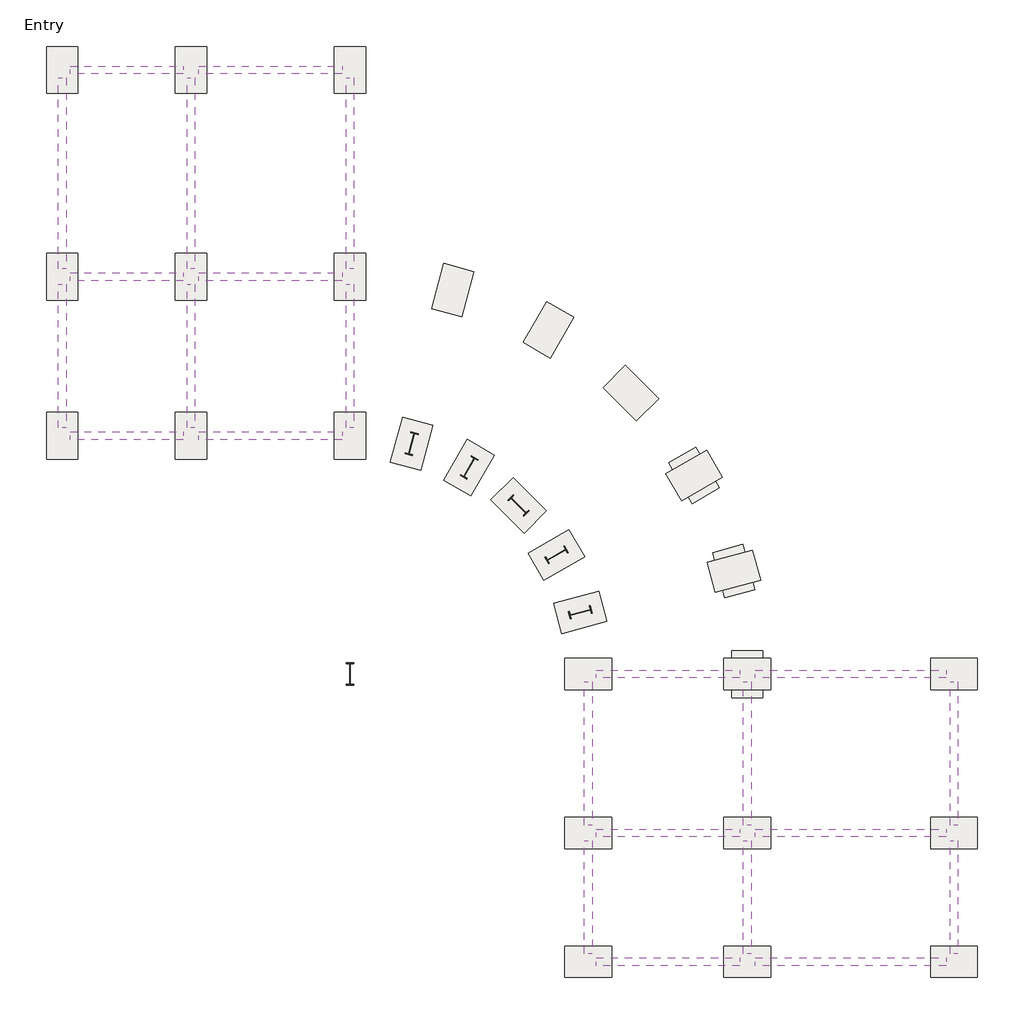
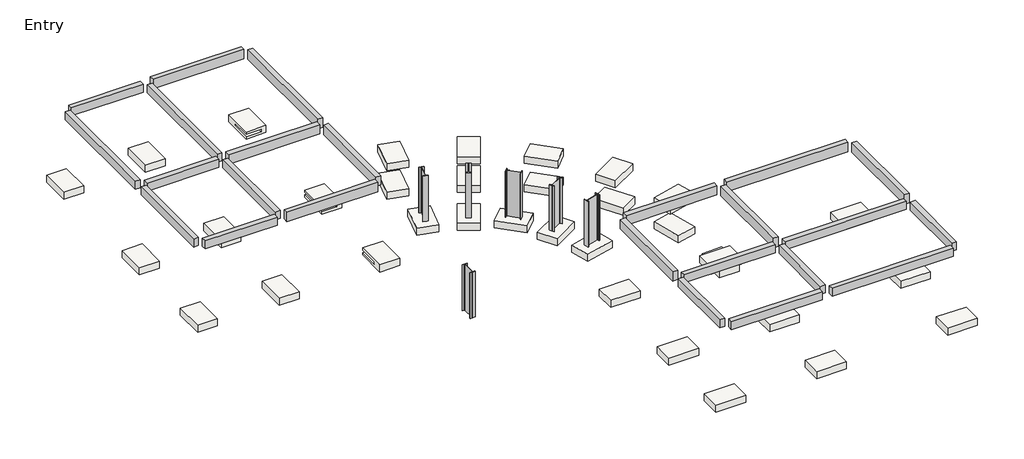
# One storey: 34 slabs, 24 beams, 6 columns.
"""IFC4 building model written with IfcOpenShell, lengths in millimetres."""

from ifc_helpers import new_model, si_unit, frame, origin, place, context, project, spatial, polyline, outline, extrude, faceted_brep, transform, mapped, element, save
from components import w840x251_ab389207, m_footing_rectangular_1800_x_1200_x_450mm_16ba7ea5, m_footing_rectangular_1800_x_1200_x_450mm_a17f5610

model = new_model("IFC4")

# Units and contexts
model_context = context("Model", 3, world=origin())
ifc_project = project(units=[si_unit("LENGTHUNIT", "METRE", prefix="MILLI")], contexts=[model_context])

# Site, building, storey
site = spatial("IfcSite", under=ifc_project)
building = spatial("IfcBuilding", under=site)
storey = spatial("IfcBuildingStorey", under=building, Name="Entry", Elevation=0.0)

# Beams
placement = place(None, origin())
element("IfcBeam", 1, ObjectType="M_Concrete-Rectangular Beam : 300 x 600mm", at=placement, inside=storey, context=model_context, shape_type="SweptSolid", body=[
    extrude(outline(polyline([(-16304.9035319, 4112.1636035), (-16304.9035319, 4412.1636035), (-10808.9035319, 4412.1636035), (-10808.9035319, 4112.1636035), (-16304.9035319, 4112.1636035)])), frame((0.0, 0.0, 2448.0), z_axis=(0.0, 0.0, 1.0), x_axis=(1.0, 0.0, 0.0)), (0.0, 0.0, 1.0), 600.0),
])
element("IfcBeam", 2, ObjectType="M_Concrete-Rectangular Beam : 300 x 600mm", at=placement, inside=storey, context=model_context, shape_type="SweptSolid", body=[
    extrude(outline(polyline([(-21244.300634, 4112.1636035), (-21244.300634, 4412.1636035), (-16904.9035319, 4412.1636035), (-16904.9035319, 4112.1636035), (-21244.300634, 4112.1636035)])), frame((0.0, 0.0, 2448.0), z_axis=(0.0, 0.0, 1.0), x_axis=(1.0, 0.0, 0.0)), (0.0, 0.0, 1.0), 510.0),
])
element("IfcBeam", 3, ObjectType="M_Concrete-Rectangular Beam : 300 x 600mm", at=placement, inside=storey, context=model_context, shape_type="SweptSolid", body=[
    extrude(outline(polyline([(-16304.9035319, -3812.8363965), (-16304.9035319, -3512.8363965), (-10808.9035319, -3512.8363965), (-10808.9035319, -3812.8363965), (-16304.9035319, -3812.8363965)])), frame((0.0, 0.0, 2448.0), z_axis=(0.0, 0.0, 1.0), x_axis=(1.0, 0.0, 0.0)), (0.0, 0.0, 1.0), 600.0),
])
element("IfcBeam", 4, ObjectType="M_Concrete-Rectangular Beam : 300 x 600mm", at=placement, inside=storey, context=model_context, shape_type="SweptSolid", body=[
    extrude(outline(polyline([(-21244.300634, -3812.8363965), (-21244.300634, -3512.8363965), (-16904.9035319, -3512.8363965), (-16904.9035319, -3812.8363965), (-21244.300634, -3812.8363965)])), frame((0.0, 0.0, 2448.0), z_axis=(0.0, 0.0, 1.0), x_axis=(1.0, 0.0, 0.0)), (0.0, 0.0, 1.0), 510.0),
])
element("IfcBeam", 5, ObjectType="M_Concrete-Rectangular Beam : 300 x 600mm", at=placement, inside=storey, context=model_context, shape_type="SweptSolid", body=[
    extrude(outline(polyline([(-16304.9035319, -9908.8363965), (-16304.9035319, -9608.8363965), (-10808.9035319, -9608.8363965), (-10808.9035319, -9908.8363965), (-16304.9035319, -9908.8363965)])), frame((0.0, 0.0, 2448.0), z_axis=(0.0, 0.0, 1.0), x_axis=(1.0, 0.0, 0.0)), (0.0, 0.0, 1.0), 600.0),
])
element("IfcBeam", 6, ObjectType="M_Concrete-Rectangular Beam : 300 x 600mm", at=placement, inside=storey, context=model_context, shape_type="SweptSolid", body=[
    extrude(outline(polyline([(-21244.300634, -9908.8363965), (-21244.300634, -9608.8363965), (-16904.9035319, -9608.8363965), (-16904.9035319, -9908.8363965), (-21244.300634, -9908.8363965)])), frame((0.0, 0.0, 2448.0), z_axis=(0.0, 0.0, 1.0), x_axis=(1.0, 0.0, 0.0)), (0.0, 0.0, 1.0), 510.0),
])
element("IfcBeam", 7, ObjectType="M_Concrete-Rectangular Beam : 300 x 600mm", at=placement, inside=storey, context=model_context, shape_type="SweptSolid", body=[
    extrude(outline(polyline([(-21394.300634, -3362.8363965), (-21694.300634, -3362.8363965), (-21694.300634, 3962.1636035), (-21394.300634, 3962.1636035), (-21394.300634, -3362.8363965)])), frame((0.0, 0.0, 2448.0), z_axis=(0.0, 0.0, 1.0), x_axis=(1.0, 0.0, 0.0)), (0.0, 0.0, 1.0), 510.0),
])
element("IfcBeam", 8, ObjectType="M_Concrete-Rectangular Beam : 300 x 600mm", at=placement, inside=storey, context=model_context, shape_type="SweptSolid", body=[
    extrude(outline(polyline([(-21394.300634, -9458.8363965), (-21694.300634, -9458.8363965), (-21694.300634, -3962.8363965), (-21394.300634, -3962.8363965), (-21394.300634, -9458.8363965)])), frame((0.0, 0.0, 2448.0), z_axis=(0.0, 0.0, 1.0), x_axis=(1.0, 0.0, 0.0)), (0.0, 0.0, 1.0), 510.0),
])
element("IfcBeam", 9, ObjectType="M_Concrete-Rectangular Beam : 300 x 600mm", at=placement, inside=storey, context=model_context, shape_type="SweptSolid", body=[
    extrude(outline(polyline([(-16454.9035319, -9458.8363965), (-16754.9035319, -9458.8363965), (-16754.9035319, -3962.8363965), (-16454.9035319, -3962.8363965), (-16454.9035319, -9458.8363965)])), frame((0.0, 0.0, 2448.0), z_axis=(0.0, 0.0, 1.0), x_axis=(1.0, 0.0, 0.0)), (0.0, 0.0, 1.0), 510.0),
])
element("IfcBeam", 10, ObjectType="M_Concrete-Rectangular Beam : 300 x 600mm", at=placement, inside=storey, context=model_context, shape_type="SweptSolid", body=[
    extrude(outline(polyline([(-16454.9035319, -3362.8363965), (-16754.9035319, -3362.8363965), (-16754.9035319, 3962.1636035), (-16454.9035319, 3962.1636035), (-16454.9035319, -3362.8363965)])), frame((0.0, 0.0, 2448.0), z_axis=(0.0, 0.0, 1.0), x_axis=(1.0, 0.0, 0.0)), (0.0, 0.0, 1.0), 510.0),
])
element("IfcBeam", 11, ObjectType="M_Concrete-Rectangular Beam : 300 x 600mm", at=placement, inside=storey, context=model_context, shape_type="SweptSolid", body=[
    extrude(outline(polyline([(-10358.9035319, -9458.8363965), (-10658.9035319, -9458.8363965), (-10658.9035319, -3962.8363965), (-10358.9035319, -3962.8363965), (-10358.9035319, -9458.8363965)])), frame((0.0, 0.0, 2448.0), z_axis=(0.0, 0.0, 1.0), x_axis=(1.0, 0.0, 0.0)), (0.0, 0.0, 1.0), 600.0),
])
element("IfcBeam", 12, ObjectType="M_Concrete-Rectangular Beam : 300 x 600mm", at=placement, inside=storey, context=model_context, shape_type="SweptSolid", body=[
    extrude(outline(polyline([(-10358.9035319, -3362.8363965), (-10658.9035319, -3362.8363965), (-10658.9035319, 3962.1636035), (-10358.9035319, 3962.1636035), (-10358.9035319, -3362.8363965)])), frame((0.0, 0.0, 2448.0), z_axis=(0.0, 0.0, 1.0), x_axis=(1.0, 0.0, 0.0)), (0.0, 0.0, 1.0), 600.0),
])
element("IfcBeam", 13, ObjectType="M_Concrete-Rectangular Beam : 300 x 600mm", at=placement, inside=storey, context=model_context, shape_type="SweptSolid", body=[
    extrude(outline(polyline([(12806.0964681, -24698.8363965), (12506.0964681, -24698.8363965), (12506.0964681, -19202.8363965), (12806.0964681, -19202.8363965), (12806.0964681, -24698.8363965)])), frame((0.0, 0.0, 2448.0), z_axis=(0.0, 0.0, 1.0), x_axis=(1.0, 0.0, 0.0)), (0.0, 0.0, 1.0), 600.0),
])
element("IfcBeam", 14, ObjectType="M_Concrete-Rectangular Beam : 300 x 600mm", at=placement, inside=storey, context=model_context, shape_type="SweptSolid", body=[
    extrude(outline(polyline([(12806.0964681, -29638.2334986), (12506.0964681, -29638.2334986), (12506.0964681, -25298.8363965), (12806.0964681, -25298.8363965), (12806.0964681, -29638.2334986)])), frame((0.0, 0.0, 2448.0), z_axis=(0.0, 0.0, 1.0), x_axis=(1.0, 0.0, 0.0)), (0.0, 0.0, 1.0), 510.0),
])
element("IfcBeam", 15, ObjectType="M_Concrete-Rectangular Beam : 300 x 600mm", at=placement, inside=storey, context=model_context, shape_type="SweptSolid", body=[
    extrude(outline(polyline([(4881.0964681, -24698.8363965), (4581.0964681, -24698.8363965), (4581.0964681, -19202.8363965), (4881.0964681, -19202.8363965), (4881.0964681, -24698.8363965)])), frame((0.0, 0.0, 2448.0), z_axis=(0.0, 0.0, 1.0), x_axis=(1.0, 0.0, 0.0)), (0.0, 0.0, 1.0), 600.0),
])
element("IfcBeam", 16, ObjectType="M_Concrete-Rectangular Beam : 300 x 600mm", at=placement, inside=storey, context=model_context, shape_type="SweptSolid", body=[
    extrude(outline(polyline([(4881.0964681, -29638.2334986), (4581.0964681, -29638.2334986), (4581.0964681, -25298.8363965), (4881.0964681, -25298.8363965), (4881.0964681, -29638.2334986)])), frame((0.0, 0.0, 2448.0), z_axis=(0.0, 0.0, 1.0), x_axis=(1.0, 0.0, 0.0)), (0.0, 0.0, 1.0), 510.0),
])
element("IfcBeam", 17, ObjectType="M_Concrete-Rectangular Beam : 300 x 600mm", at=placement, inside=storey, context=model_context, shape_type="SweptSolid", body=[
    extrude(outline(polyline([(-1214.9035319, -24698.8363965), (-1514.9035319, -24698.8363965), (-1514.9035319, -19202.8363965), (-1214.9035319, -19202.8363965), (-1214.9035319, -24698.8363965)])), frame((0.0, 0.0, 2448.0), z_axis=(0.0, 0.0, 1.0), x_axis=(1.0, 0.0, 0.0)), (0.0, 0.0, 1.0), 600.0),
])
element("IfcBeam", 18, ObjectType="M_Concrete-Rectangular Beam : 300 x 600mm", at=placement, inside=storey, context=model_context, shape_type="SweptSolid", body=[
    extrude(outline(polyline([(-1214.9035319, -29638.2334986), (-1514.9035319, -29638.2334986), (-1514.9035319, -25298.8363965), (-1214.9035319, -25298.8363965), (-1214.9035319, -29638.2334986)])), frame((0.0, 0.0, 2448.0), z_axis=(0.0, 0.0, 1.0), x_axis=(1.0, 0.0, 0.0)), (0.0, 0.0, 1.0), 510.0),
])
element("IfcBeam", 19, ObjectType="M_Concrete-Rectangular Beam : 300 x 600mm", at=placement, inside=storey, context=model_context, shape_type="SweptSolid", body=[
    extrude(outline(polyline([(5031.0964681, -30088.2334986), (5031.0964681, -29788.2334986), (12356.0964681, -29788.2334986), (12356.0964681, -30088.2334986), (5031.0964681, -30088.2334986)])), frame((0.0, 0.0, 2448.0), z_axis=(0.0, 0.0, 1.0), x_axis=(1.0, 0.0, 0.0)), (0.0, 0.0, 1.0), 510.0),
])
element("IfcBeam", 20, ObjectType="M_Concrete-Rectangular Beam : 300 x 600mm", at=placement, inside=storey, context=model_context, shape_type="SweptSolid", body=[
    extrude(outline(polyline([(-1064.9035319, -30088.2334986), (-1064.9035319, -29788.2334986), (4431.0964681, -29788.2334986), (4431.0964681, -30088.2334986), (-1064.9035319, -30088.2334986)])), frame((0.0, 0.0, 2448.0), z_axis=(0.0, 0.0, 1.0), x_axis=(1.0, 0.0, 0.0)), (0.0, 0.0, 1.0), 510.0),
])
element("IfcBeam", 21, ObjectType="M_Concrete-Rectangular Beam : 300 x 600mm", at=placement, inside=storey, context=model_context, shape_type="SweptSolid", body=[
    extrude(outline(polyline([(-1064.9035319, -25148.8363965), (-1064.9035319, -24848.8363965), (4431.0964681, -24848.8363965), (4431.0964681, -25148.8363965), (-1064.9035319, -25148.8363965)])), frame((0.0, 0.0, 2448.0), z_axis=(0.0, 0.0, 1.0), x_axis=(1.0, 0.0, 0.0)), (0.0, 0.0, 1.0), 510.0),
])
element("IfcBeam", 22, ObjectType="M_Concrete-Rectangular Beam : 300 x 600mm", at=placement, inside=storey, context=model_context, shape_type="SweptSolid", body=[
    extrude(outline(polyline([(5031.0964681, -25148.8363965), (5031.0964681, -24848.8363965), (12356.0964681, -24848.8363965), (12356.0964681, -25148.8363965), (5031.0964681, -25148.8363965)])), frame((0.0, 0.0, 2448.0), z_axis=(0.0, 0.0, 1.0), x_axis=(1.0, 0.0, 0.0)), (0.0, 0.0, 1.0), 510.0),
])
element("IfcBeam", 23, ObjectType="M_Concrete-Rectangular Beam : 300 x 600mm", at=placement, inside=storey, context=model_context, shape_type="SweptSolid", body=[
    extrude(outline(polyline([(-1064.9035319, -19052.8363965), (-1064.9035319, -18752.8363965), (4431.0964681, -18752.8363965), (4431.0964681, -19052.8363965), (-1064.9035319, -19052.8363965)])), frame((0.0, 0.0, 2448.0), z_axis=(0.0, 0.0, 1.0), x_axis=(1.0, 0.0, 0.0)), (0.0, 0.0, 1.0), 600.0),
])
element("IfcBeam", 24, ObjectType="M_Concrete-Rectangular Beam : 300 x 600mm", at=placement, inside=storey, context=model_context, shape_type="SweptSolid", body=[
    extrude(outline(polyline([(5031.0964681, -19052.8363965), (5031.0964681, -18752.8363965), (12356.0964681, -18752.8363965), (12356.0964681, -19052.8363965), (5031.0964681, -19052.8363965)])), frame((0.0, 0.0, 2448.0), z_axis=(0.0, 0.0, 1.0), x_axis=(1.0, 0.0, 0.0)), (0.0, 0.0, 1.0), 600.0),
])

# Columns
w840x251_shape = w840x251_ab389207(model_context)
element("IfcColumn", 25, ObjectType="M_W-Wide Flange-Column : W840X251", at=placement, inside=storey, context=model_context, shape_type="MappedRepresentation", body=[
    mapped(w840x251_shape, transform((-10508.9035319, -18902.8363965, 0.0), x_axis=(1.0, 0.0, 0.0), y_axis=(0.0, 1.0, 0.0), z_axis=(0.0, 0.0, 1.0))),
])
element("IfcColumn", 26, ObjectType="M_W-Wide Flange-Column : W840X251", at=placement, inside=storey, context=model_context, shape_type="MappedRepresentation", body=[
    mapped(w840x251_shape, transform((-1676.4777763, -16536.1950481, 0.0), x_axis=(-0.25881904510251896, 0.9659258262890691, 0.0), y_axis=(-0.9659258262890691, -0.25881904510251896, 0.0), z_axis=(0.0, 0.0, 1.0))),
])
element("IfcColumn", 27, ObjectType="M_W-Wide Flange-Column : W840X251", at=placement, inside=storey, context=model_context, shape_type="MappedRepresentation", body=[
    mapped(w840x251_shape, transform((-2589.9672396, -14330.8363965, 0.0), x_axis=(-0.4999999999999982, 0.8660254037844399, 0.0), y_axis=(-0.8660254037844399, -0.4999999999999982, 0.0), z_axis=(0.0, 0.0, 1.0))),
])
element("IfcColumn", 28, ObjectType="M_W-Wide Flange-Column : W840X251", at=placement, inside=storey, context=model_context, shape_type="MappedRepresentation", body=[
    mapped(w840x251_shape, transform((-4043.1191247, -12437.0519893, 0.0), x_axis=(0.7071067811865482, 0.7071067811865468, 0.0), y_axis=(-0.7071067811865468, 0.7071067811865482, 0.0), z_axis=(0.0, 0.0, 1.0))),
])
element("IfcColumn", 29, ObjectType="M_W-Wide Flange-Column : W840X251", at=placement, inside=storey, context=model_context, shape_type="MappedRepresentation", body=[
    mapped(w840x251_shape, transform((-5936.9035319, -10983.9001043, 0.0), x_axis=(0.8660254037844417, -0.49999999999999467, 0.0), y_axis=(0.49999999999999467, 0.8660254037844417, 0.0), z_axis=(0.0, 0.0, 1.0))),
])
element("IfcColumn", 30, ObjectType="M_W-Wide Flange-Column : W840X251", at=placement, inside=storey, context=model_context, shape_type="MappedRepresentation", body=[
    mapped(w840x251_shape, transform((-8142.2621834, -10070.4106409, 0.0), x_axis=(0.9659258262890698, -0.25881904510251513, 0.0), y_axis=(0.25881904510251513, 0.9659258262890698, 0.0), z_axis=(0.0, 0.0, 1.0))),
])

# Slabs
element("IfcSlab", 31, ObjectType="M_Footing-Rectangular : 1800 x 1200 x 450mm", at=placement, inside=storey, context=model_context, shape_type="Brep", body=[
    faceted_brep([(-11108.9035319, 3362.1636035, -1677.0), (-9908.9035319, 3362.1636035, -1677.0), (-9908.9035319, 5162.1636035, -1677.0), (-11108.9035319, 5162.1636035, -1677.0), (-11108.9035319, 3362.1636035, -2127.0), (-11108.9035319, 5162.1636035, -2127.0), (-9908.9035319, 5162.1636035, -2127.0), (-9908.9035319, 3362.1636035, -2127.0), (-11108.9035319, 3362.1636035, -1829.0), (-10208.9035319, 3362.1636035, -1829.0), (-10208.9035319, 3362.1636035, -1979.0), (-11108.9035319, 3362.1636035, -1979.0), (-11108.9035319, 4562.1636035, -1979.0), (-11108.9035319, 4562.1636035, -1829.0), (-10208.9035319, 4562.1636035, -1979.0), (-10208.9035319, 4562.1636035, -1829.0)], [[[0, 1, 2, 3]], [[4, 5, 6, 7]], [[1, 0, 8, 9, 10, 11, 4, 7]], [[2, 1, 7, 6]], [[3, 2, 6, 5]], [[0, 3, 5, 4, 11, 12, 13, 8]], [[14, 12, 11, 10]], [[15, 9, 8, 13]], [[15, 14, 10, 9]], [[14, 15, 13, 12]]]),
])
element("IfcSlab", 32, ObjectType="M_Footing-Rectangular : 1800 x 1200 x 450mm", at=placement, inside=storey, context=model_context, shape_type="Brep", body=[
    faceted_brep([(5331.0964681, -18002.8363965, -1829.0), (4131.0964681, -18002.8363965, -1829.0), (4131.0964681, -18302.8363965, -1829.0), (4131.0964681, -19502.8363965, -1829.0), (4131.0964681, -19802.8363965, -1829.0), (5331.0964681, -19802.8363965, -1829.0), (5331.0964681, -19502.8363965, -1829.0), (5331.0964681, -18302.8363965, -1829.0), (5331.0964681, -18002.8363965, -2279.0), (5331.0964681, -19802.8363965, -2279.0), (4131.0964681, -19802.8363965, -2279.0), (4131.0964681, -18002.8363965, -2279.0)], [[[0, 1, 2, 3, 4, 5, 6, 7]], [[8, 9, 10, 11]], [[1, 0, 8, 11]], [[4, 3, 2, 1, 11, 10]], [[5, 4, 10, 9]], [[0, 7, 6, 5, 9, 8]]]),
])
element("IfcSlab", 33, ObjectType="M_Footing-Rectangular : 1800 x 1200 x 450mm", at=placement, inside=storey, context=model_context, shape_type="SweptSolid", body=[
    extrude(outline(polyline([(-1677.0, -9908.9035319), (-1677.0, -11108.9035319), (-1829.0, -11108.9035319), (-1829.0, -10208.9035319), (-1979.0, -10208.9035319), (-1979.0, -11108.9035319), (-2127.0, -11108.9035319), (-2127.0, -9908.9035319), (-1677.0, -9908.9035319)])), frame((0.0, -4562.8363965, 0.0), z_axis=(0.0, 1.0, 0.0), x_axis=(0.0, 0.0, 1.0)), (0.0, 0.0, 1.0), 1800.0),
])
element("IfcSlab", 34, ObjectType="M_Footing-Rectangular : 1800 x 1200 x 450mm", at=placement, inside=storey, context=model_context, shape_type="Brep", body=[
    faceted_brep([(-9908.9035319, -8858.8363965, -1677.0), (-11108.9035319, -8858.8363965, -1677.0), (-11108.9035319, -10658.8363965, -1677.0), (-9908.9035319, -10658.8363965, -1677.0), (-9908.9035319, -8858.8363965, -2127.0), (-9908.9035319, -10658.8363965, -2127.0), (-11108.9035319, -10658.8363965, -2127.0), (-11108.9035319, -8858.8363965, -2127.0), (-11108.9035319, -8858.8363965, -1979.0), (-10208.9035319, -8858.8363965, -1979.0), (-10208.9035319, -8858.8363965, -1829.0), (-11108.9035319, -8858.8363965, -1829.0), (-11108.9035319, -10058.8363965, -1829.0), (-11108.9035319, -10058.8363965, -1979.0), (-10208.9035319, -10058.8363965, -1979.0), (-10208.9035319, -10058.8363965, -1829.0)], [[[0, 1, 2, 3]], [[4, 5, 6, 7]], [[1, 0, 4, 7, 8, 9, 10, 11]], [[2, 1, 11, 12, 13, 8, 7, 6]], [[3, 2, 6, 5]], [[0, 3, 5, 4]], [[13, 14, 9, 8]], [[10, 15, 12, 11]], [[14, 15, 10, 9]], [[15, 14, 13, 12]]]),
])
element("IfcSlab", 35, ObjectType="M_Footing-Rectangular : 1800 x 1200 x 450mm", at=placement, inside=storey, context=model_context, shape_type="SweptSolid", body=[
    extrude(outline(polyline([(11756.0964681, -19502.8363965), (11756.0964681, -18302.8363965), (13556.0964681, -18302.8363965), (13556.0964681, -19502.8363965), (11756.0964681, -19502.8363965)])), frame((0.0, 0.0, -2127.0), z_axis=(0.0, 0.0, 1.0), x_axis=(1.0, 0.0, 0.0)), (0.0, 0.0, 1.0), 450.0),
])
element("IfcSlab", 36, ObjectType="M_Footing-Rectangular : 1800 x 1200 x 450mm", at=placement, inside=storey, context=model_context, shape_type="SweptSolid", body=[
    extrude(outline(polyline([(-1677.0, 5631.0964681), (-1677.0, 3831.0964681), (-2127.0, 3831.0964681), (-2127.0, 4131.0964681), (-1829.0, 4131.0964681), (-1829.0, 5331.0964681), (-2127.0, 5331.0964681), (-2127.0, 5631.0964681), (-1677.0, 5631.0964681)])), frame((0.0, -19502.8363965, 0.0), z_axis=(0.0, 1.0, 0.0), x_axis=(0.0, 0.0, 1.0)), (0.0, 0.0, 1.0), 1200.0),
])
element("IfcSlab", 37, ObjectType="M_Footing-Rectangular : 1800 x 1200 x 450mm", at=placement, inside=storey, context=model_context, shape_type="SweptSolid", body=[
    extrude(outline(polyline([(-464.9035319, -18302.8363965), (-464.9035319, -19502.8363965), (-2264.9035319, -19502.8363965), (-2264.9035319, -18302.8363965), (-464.9035319, -18302.8363965)])), frame((0.0, 0.0, -2127.0), z_axis=(0.0, 0.0, 1.0), x_axis=(1.0, 0.0, 0.0)), (0.0, 0.0, 1.0), 450.0),
])
m_footing_rectangular_1800_x_1200_x_450mm_shape = m_footing_rectangular_1800_x_1200_x_450mm_16ba7ea5(model_context)
element("IfcSlab", 38, ObjectType="M_Footing-Rectangular : 1800 x 1200 x 450mm", at=placement, inside=storey, context=model_context, shape_type="MappedRepresentation", body=[
    mapped(m_footing_rectangular_1800_x_1200_x_450mm_shape, transform((4211.8060608, -14958.4341491, -1829.0), x_axis=(0.9659258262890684, 0.25881904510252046, 0.0), y_axis=(-0.25881904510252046, 0.9659258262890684, 0.0), z_axis=(0.0, 0.0, 1.0))),
])
element("IfcSlab", 39, ObjectType="M_Footing-Rectangular : 1800 x 1200 x 450mm", at=placement, inside=storey, context=model_context, shape_type="MappedRepresentation", body=[
    mapped(m_footing_rectangular_1800_x_1200_x_450mm_shape, transform((2689.3236218, -11282.8363965, -1829.0), x_axis=(0.8660254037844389, 0.4999999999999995, 0.0), y_axis=(-0.4999999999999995, 0.8660254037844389, 0.0), z_axis=(0.0, 0.0, 1.0))),
])
element("IfcSlab", 40, ObjectType="M_Footing-Rectangular : 1800 x 1200 x 450mm", at=placement, inside=storey, context=model_context, shape_type="MappedRepresentation", body=[
    mapped(m_footing_rectangular_1800_x_1200_x_450mm_shape, transform((267.4038134, -8126.5290512, -1829.0), x_axis=(0.7071067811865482, 0.7071067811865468, 0.0), y_axis=(-0.7071067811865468, 0.7071067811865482, 0.0), z_axis=(0.0, 0.0, 1.0))),
])
element("IfcSlab", 41, ObjectType="M_Footing-Rectangular : 1800 x 1200 x 450mm", at=placement, inside=storey, context=model_context, shape_type="MappedRepresentation", body=[
    mapped(m_footing_rectangular_1800_x_1200_x_450mm_shape, transform((-2888.9035319, -5704.6092428, -1829.0), x_axis=(0.8660254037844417, -0.49999999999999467, 0.0), y_axis=(0.49999999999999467, 0.8660254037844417, 0.0), z_axis=(0.0, 0.0, 1.0))),
])
element("IfcSlab", 42, ObjectType="M_Footing-Rectangular : 1800 x 1200 x 450mm", at=placement, inside=storey, context=model_context, shape_type="MappedRepresentation", body=[
    mapped(m_footing_rectangular_1800_x_1200_x_450mm_shape, transform((-6564.5012845, -4182.1268039, -1829.0), x_axis=(0.9659258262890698, -0.25881904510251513, 0.0), y_axis=(0.25881904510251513, 0.9659258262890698, 0.0), z_axis=(0.0, 0.0, 1.0))),
])
element("IfcSlab", 43, ObjectType="M_Footing-Rectangular : 1800 x 1200 x 450mm", at=placement, inside=storey, context=model_context, shape_type="MappedRepresentation", body=[
    mapped(m_footing_rectangular_1800_x_1200_x_450mm_shape, transform((-1676.4777763, -16536.1950481, 0.0), x_axis=(-0.25881904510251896, 0.9659258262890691, 0.0), y_axis=(-0.9659258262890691, -0.25881904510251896, 0.0), z_axis=(0.0, 0.0, 1.0))),
])
element("IfcSlab", 44, ObjectType="M_Footing-Rectangular : 1800 x 1200 x 450mm", at=placement, inside=storey, context=model_context, shape_type="MappedRepresentation", body=[
    mapped(m_footing_rectangular_1800_x_1200_x_450mm_shape, transform((-2589.9672396, -14330.8363965, 0.0), x_axis=(-0.4999999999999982, 0.8660254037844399, 0.0), y_axis=(-0.8660254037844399, -0.4999999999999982, 0.0), z_axis=(0.0, 0.0, 1.0))),
])
element("IfcSlab", 45, ObjectType="M_Footing-Rectangular : 1800 x 1200 x 450mm", at=placement, inside=storey, context=model_context, shape_type="MappedRepresentation", body=[
    mapped(m_footing_rectangular_1800_x_1200_x_450mm_shape, transform((-4043.1191247, -12437.0519893, 0.0), x_axis=(0.7071067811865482, 0.7071067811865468, 0.0), y_axis=(-0.7071067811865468, 0.7071067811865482, 0.0), z_axis=(0.0, 0.0, 1.0))),
])
element("IfcSlab", 46, ObjectType="M_Footing-Rectangular : 1800 x 1200 x 450mm", at=placement, inside=storey, context=model_context, shape_type="MappedRepresentation", body=[
    mapped(m_footing_rectangular_1800_x_1200_x_450mm_shape, transform((-5936.9035319, -10983.9001043, 0.0), x_axis=(0.8660254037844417, -0.49999999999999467, 0.0), y_axis=(0.49999999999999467, 0.8660254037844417, 0.0), z_axis=(0.0, 0.0, 1.0))),
])
element("IfcSlab", 47, ObjectType="M_Footing-Rectangular : 1800 x 1200 x 450mm", at=placement, inside=storey, context=model_context, shape_type="MappedRepresentation", body=[
    mapped(m_footing_rectangular_1800_x_1200_x_450mm_shape, transform((-8142.2621834, -10070.4106409, 0.0), x_axis=(0.9659258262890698, -0.25881904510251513, 0.0), y_axis=(0.25881904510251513, 0.9659258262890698, 0.0), z_axis=(0.0, 0.0, 1.0))),
])
element("IfcSlab", 48, ObjectType="M_Footing-Rectangular : 1800 x 1200 x 450mm", at=placement, inside=storey, context=model_context, shape_type="MappedRepresentation", body=[
    mapped(m_footing_rectangular_1800_x_1200_x_450mm_shape, transform((4211.8060608, -14958.4341491, 0.0), x_axis=(-0.25881904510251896, 0.9659258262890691, 0.0), y_axis=(-0.9659258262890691, -0.25881904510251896, 0.0), z_axis=(0.0, 0.0, 1.0))),
])
element("IfcSlab", 49, ObjectType="M_Footing-Rectangular : 1800 x 1200 x 450mm", at=placement, inside=storey, context=model_context, shape_type="MappedRepresentation", body=[
    mapped(m_footing_rectangular_1800_x_1200_x_450mm_shape, transform((2689.3236218, -11282.8363965, 0.0), x_axis=(-0.4999999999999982, 0.8660254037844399, 0.0), y_axis=(-0.8660254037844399, -0.4999999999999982, 0.0), z_axis=(0.0, 0.0, 1.0))),
])
element("IfcSlab", 50, ObjectType="M_Footing-Rectangular : 1800 x 1200 x 450mm", at=placement, inside=storey, context=model_context, shape_type="MappedRepresentation", body=[
    mapped(m_footing_rectangular_1800_x_1200_x_450mm_shape, transform((267.4038134, -8126.5290512, 0.0), x_axis=(0.7071067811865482, 0.7071067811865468, 0.0), y_axis=(-0.7071067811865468, 0.7071067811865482, 0.0), z_axis=(0.0, 0.0, 1.0))),
])
element("IfcSlab", 51, ObjectType="M_Footing-Rectangular : 1800 x 1200 x 450mm", at=placement, inside=storey, context=model_context, shape_type="MappedRepresentation", body=[
    mapped(m_footing_rectangular_1800_x_1200_x_450mm_shape, transform((-2888.9035319, -5704.6092428, 0.0), x_axis=(0.8660254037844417, -0.49999999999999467, 0.0), y_axis=(0.49999999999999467, 0.8660254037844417, 0.0), z_axis=(0.0, 0.0, 1.0))),
])
element("IfcSlab", 52, ObjectType="M_Footing-Rectangular : 1800 x 1200 x 450mm", at=placement, inside=storey, context=model_context, shape_type="MappedRepresentation", body=[
    mapped(m_footing_rectangular_1800_x_1200_x_450mm_shape, transform((-6564.5012845, -4182.1268039, 0.0), x_axis=(0.9659258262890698, -0.25881904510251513, 0.0), y_axis=(0.25881904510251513, 0.9659258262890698, 0.0), z_axis=(0.0, 0.0, 1.0))),
])
element("IfcSlab", 53, ObjectType="M_Footing-Rectangular : 1800 x 1200 x 450mm", at=placement, inside=storey, context=model_context, shape_type="MappedRepresentation", body=[
    mapped(m_footing_rectangular_1800_x_1200_x_450mm_shape, transform((-16604.9035319, 4262.1636035, -1677.0), x_axis=(-1.0, 0.0, 0.0), y_axis=(0.0, -1.0, 0.0), z_axis=(0.0, 0.0, 1.0))),
])
element("IfcSlab", 54, ObjectType="M_Footing-Rectangular : 1800 x 1200 x 450mm", at=placement, inside=storey, context=model_context, shape_type="MappedRepresentation", body=[
    mapped(m_footing_rectangular_1800_x_1200_x_450mm_shape, transform((-21544.300634, 4262.1636035, -1677.0), x_axis=(-1.0, 0.0, 0.0), y_axis=(0.0, -1.0, 0.0), z_axis=(0.0, 0.0, 1.0))),
])
element("IfcSlab", 55, ObjectType="M_Footing-Rectangular : 1800 x 1200 x 450mm", at=placement, inside=storey, context=model_context, shape_type="MappedRepresentation", body=[
    mapped(m_footing_rectangular_1800_x_1200_x_450mm_shape, transform((-16604.9035319, -3662.8363965, -1677.0), x_axis=(-1.0, 0.0, 0.0), y_axis=(0.0, -1.0, 0.0), z_axis=(0.0, 0.0, 1.0))),
])
element("IfcSlab", 56, ObjectType="M_Footing-Rectangular : 1800 x 1200 x 450mm", at=placement, inside=storey, context=model_context, shape_type="MappedRepresentation", body=[
    mapped(m_footing_rectangular_1800_x_1200_x_450mm_shape, transform((-21544.300634, -3662.8363965, -1677.0), x_axis=(-1.0, 0.0, 0.0), y_axis=(0.0, -1.0, 0.0), z_axis=(0.0, 0.0, 1.0))),
])
element("IfcSlab", 57, ObjectType="M_Footing-Rectangular : 1800 x 1200 x 450mm", at=placement, inside=storey, context=model_context, shape_type="MappedRepresentation", body=[
    mapped(m_footing_rectangular_1800_x_1200_x_450mm_shape, transform((-16604.9035319, -9758.8363965, -1677.0), x_axis=(-1.0, 0.0, 0.0), y_axis=(0.0, -1.0, 0.0), z_axis=(0.0, 0.0, 1.0))),
])
element("IfcSlab", 58, ObjectType="M_Footing-Rectangular : 1800 x 1200 x 450mm", at=placement, inside=storey, context=model_context, shape_type="MappedRepresentation", body=[
    mapped(m_footing_rectangular_1800_x_1200_x_450mm_shape, transform((-21544.300634, -9758.8363965, -1677.0), x_axis=(-1.0, 0.0, 0.0), y_axis=(0.0, -1.0, 0.0), z_axis=(0.0, 0.0, 1.0))),
])
m_footing_rectangular_1800_x_1200_x_450mm_2_shape = m_footing_rectangular_1800_x_1200_x_450mm_a17f5610(model_context)
element("IfcSlab", 59, ObjectType="M_Footing-Rectangular : 1800 x 1200 x 450mm", at=placement, inside=storey, context=model_context, shape_type="MappedRepresentation", body=[
    mapped(m_footing_rectangular_1800_x_1200_x_450mm_2_shape, transform((12656.0964681, -24998.8363965, -1677.0), x_axis=(0.0, -1.0, 0.0), y_axis=(1.0, 0.0, 0.0), z_axis=(0.0, 0.0, 1.0))),
])
element("IfcSlab", 60, ObjectType="M_Footing-Rectangular : 1800 x 1200 x 450mm", at=placement, inside=storey, context=model_context, shape_type="MappedRepresentation", body=[
    mapped(m_footing_rectangular_1800_x_1200_x_450mm_2_shape, transform((12656.0964681, -29938.2334986, -1677.0), x_axis=(0.0, -1.0, 0.0), y_axis=(1.0, 0.0, 0.0), z_axis=(0.0, 0.0, 1.0))),
])
element("IfcSlab", 61, ObjectType="M_Footing-Rectangular : 1800 x 1200 x 450mm", at=placement, inside=storey, context=model_context, shape_type="MappedRepresentation", body=[
    mapped(m_footing_rectangular_1800_x_1200_x_450mm_2_shape, transform((4731.0964681, -24998.8363965, -1677.0), x_axis=(0.0, -1.0, 0.0), y_axis=(1.0, 0.0, 0.0), z_axis=(0.0, 0.0, 1.0))),
])
element("IfcSlab", 62, ObjectType="M_Footing-Rectangular : 1800 x 1200 x 450mm", at=placement, inside=storey, context=model_context, shape_type="MappedRepresentation", body=[
    mapped(m_footing_rectangular_1800_x_1200_x_450mm_2_shape, transform((4731.0964681, -29938.2334986, -1677.0), x_axis=(0.0, -1.0, 0.0), y_axis=(1.0, 0.0, 0.0), z_axis=(0.0, 0.0, 1.0))),
])
element("IfcSlab", 63, ObjectType="M_Footing-Rectangular : 1800 x 1200 x 450mm", at=placement, inside=storey, context=model_context, shape_type="MappedRepresentation", body=[
    mapped(m_footing_rectangular_1800_x_1200_x_450mm_2_shape, transform((-1364.9035319, -24998.8363965, -1677.0), x_axis=(0.0, -1.0, 0.0), y_axis=(1.0, 0.0, 0.0), z_axis=(0.0, 0.0, 1.0))),
])
element("IfcSlab", 64, ObjectType="M_Footing-Rectangular : 1800 x 1200 x 450mm", at=placement, inside=storey, context=model_context, shape_type="MappedRepresentation", body=[
    mapped(m_footing_rectangular_1800_x_1200_x_450mm_2_shape, transform((-1364.9035319, -29938.2334986, -1677.0), x_axis=(0.0, -1.0, 0.0), y_axis=(1.0, 0.0, 0.0), z_axis=(0.0, 0.0, 1.0))),
])

save(model, "model.ifc")
